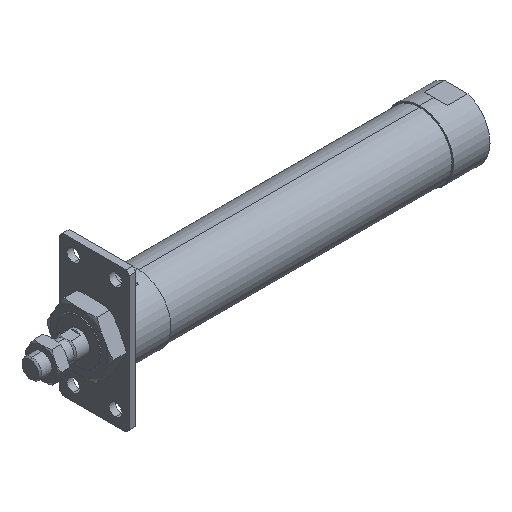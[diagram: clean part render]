
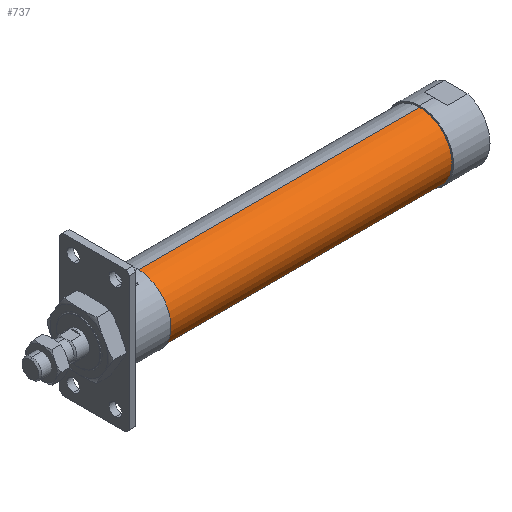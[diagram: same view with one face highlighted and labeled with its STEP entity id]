
A CAD part, isometric view. The second image highlights one B-rep face of the part: STEP entity #737.
In plain terms, the highlighted cylindrical face has radius 23 mm (diameter 46 mm), a partial arc.
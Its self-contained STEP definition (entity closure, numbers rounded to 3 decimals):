
#82 = VERTEX_POINT ( 'NONE', #2854 ) ;
#180 = EDGE_CURVE ( 'NONE', #82, #1735, #2095, .T. ) ;
#208 = AXIS2_PLACEMENT_3D ( 'NONE', #1682, #1316, #3247 ) ;
#400 = CARTESIAN_POINT ( 'NONE',  ( -1.784, 0., 0. ) ) ;
#404 = DIRECTION ( 'NONE',  ( -1., 0., 0. ) ) ;
#416 = LINE ( 'NONE', #1867, #1808 ) ;
#737 = ADVANCED_FACE ( 'NONE', ( #3205 ), #1985, .T. ) ;
#765 = EDGE_LOOP ( 'NONE', ( #2001, #1668, #3706, #855 ) ) ;
#855 = ORIENTED_EDGE ( 'NONE', *, *, #180, .F. ) ;
#1316 = DIRECTION ( 'NONE',  ( -1., 0., 0. ) ) ;
#1370 = CARTESIAN_POINT ( 'NONE',  ( 277., 0., -23. ) ) ;
#1668 = ORIENTED_EDGE ( 'NONE', *, *, #4045, .T. ) ;
#1682 = CARTESIAN_POINT ( 'NONE',  ( 76., 0., 0. ) ) ;
#1692 = DIRECTION ( 'NONE',  ( -1., 0., 0. ) ) ;
#1735 = VERTEX_POINT ( 'NONE', #1781 ) ;
#1781 = CARTESIAN_POINT ( 'NONE',  ( 76., 0., 23. ) ) ;
#1808 = VECTOR ( 'NONE', #1962, 1000. ) ;
#1867 = CARTESIAN_POINT ( 'NONE',  ( -1.784, 0., 23. ) ) ;
#1962 = DIRECTION ( 'NONE',  ( -1., 0., 0. ) ) ;
#1985 = CYLINDRICAL_SURFACE ( 'NONE', #2642, 23. ) ;
#2001 = ORIENTED_EDGE ( 'NONE', *, *, #3983, .F. ) ;
#2008 = CARTESIAN_POINT ( 'NONE',  ( -1.784, 0., -23. ) ) ;
#2095 = CIRCLE ( 'NONE', #208, 23. ) ;
#2141 = VERTEX_POINT ( 'NONE', #3533 ) ;
#2389 = VERTEX_POINT ( 'NONE', #1370 ) ;
#2642 = AXIS2_PLACEMENT_3D ( 'NONE', #400, #1692, #3935 ) ;
#2854 = CARTESIAN_POINT ( 'NONE',  ( 76., 0., -23. ) ) ;
#2862 = EDGE_CURVE ( 'NONE', #2141, #1735, #416, .T. ) ;
#2915 = VECTOR ( 'NONE', #3559, 1000. ) ;
#2941 = CARTESIAN_POINT ( 'NONE',  ( 277., 0., 0. ) ) ;
#3205 = FACE_OUTER_BOUND ( 'NONE', #765, .T. ) ;
#3247 = DIRECTION ( 'NONE',  ( 0., 0., 1. ) ) ;
#3284 = DIRECTION ( 'NONE',  ( 0., 0., 1. ) ) ;
#3374 = LINE ( 'NONE', #2008, #2915 ) ;
#3533 = CARTESIAN_POINT ( 'NONE',  ( 277., 0., 23. ) ) ;
#3552 = AXIS2_PLACEMENT_3D ( 'NONE', #2941, #404, #3284 ) ;
#3559 = DIRECTION ( 'NONE',  ( -1., 0., 0. ) ) ;
#3684 = CIRCLE ( 'NONE', #3552, 23. ) ;
#3706 = ORIENTED_EDGE ( 'NONE', *, *, #2862, .T. ) ;
#3935 = DIRECTION ( 'NONE',  ( 0., 0., 1. ) ) ;
#3983 = EDGE_CURVE ( 'NONE', #2389, #82, #3374, .T. ) ;
#4045 = EDGE_CURVE ( 'NONE', #2389, #2141, #3684, .T. ) ;
